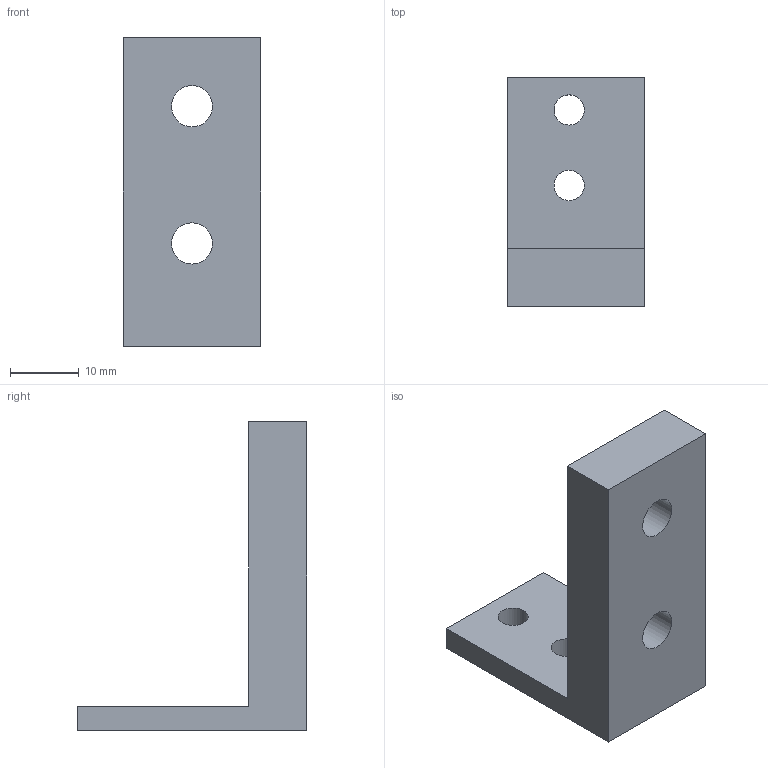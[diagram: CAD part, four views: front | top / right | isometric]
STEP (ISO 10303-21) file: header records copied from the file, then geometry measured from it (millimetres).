
FILE_DESCRIPTION(/* description */ (''),/* implementation_level */ '2;1');
FILE_NAME(/* name */ '/Users/davidflorian/Library/Mobile Documents/com~apple~CloudDocs/Vanderbilt/Papers/OTTO/Supplemental Material/3D-Printable-Components-STEP-Files/Drag-Chain-Connector-2.step',/* time_stamp */ '2020-06-30T23:32:03-05:00',/* author */ (''),/* organization */ (''),/* preprocessor_version */ 'ST-DEVELOPER v18.1',/* originating_system */ 'Autodesk Translation Framework v9.3.0.1241',/* authorisation */ '');
FILE_SCHEMA (('AUTOMOTIVE_DESIGN { 1 0 10303 214 3 1 1 }'));
Length unit declared in the file: millimetre
Products named in the file (1): Drag Chain 4
Bounding box: 20 x 33.5 x 45 mm (x, y, z)
Volume: 8698.3 mm3; surface area: 4353.4 mm2
Topology: 1 solids, 1 shells, 16 faces, 36 edges, 24 vertices
Faces by surface type: plane 10, cylinder 6
Full cylindrical faces by diameter (mm): 4.4 x2, 6 x2, 9.2 x2
Entity records: 501 total; most frequent: DIRECTION 82, CARTESIAN_POINT 77, ORIENTED_EDGE 72, EDGE_CURVE 36, AXIS2_PLACEMENT_3D 29, EDGE_LOOP 26, LINE 24, VECTOR 24
